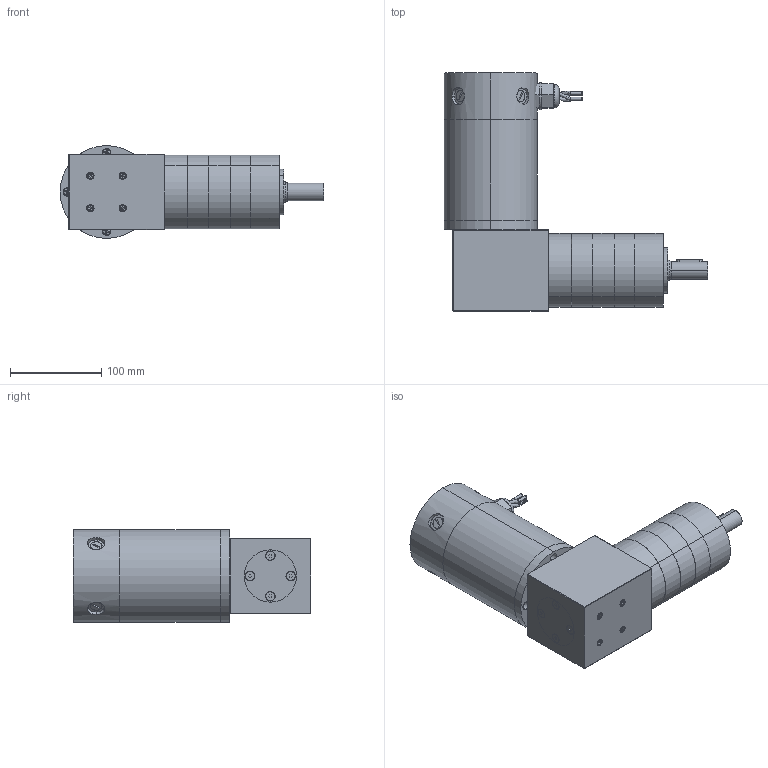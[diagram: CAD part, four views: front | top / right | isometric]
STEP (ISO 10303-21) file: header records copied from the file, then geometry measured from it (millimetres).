
FILE_DESCRIPTION (( 'STEP AP203' ), '1' );
FILE_NAME ('d40675agra4.step', '2018-12-07T19:48:01', ( '' ), ( '' ), 'SwSTEP 2.0', 'SolidWorks 2017', '' );
FILE_SCHEMA (( 'CONFIG_CONTROL_DESIGN' ));
Length unit declared in the file: inch
Products named in the file (1): d40675agra4
Bounding box: 288.5 x 260.35 x 101.6 mm (x, y, z)
Volume: 2830065 mm3; surface area: 277904.1 mm2
Topology: 29 solids, 29 shells, 1269 faces, 3167 edges, 2001 vertices
Faces by surface type: cylinder 727, plane 360, cone 117, torus 41, bspline 16, sphere 8
Entity records: 57625 total; most frequent: CARTESIAN_POINT 29944, ORIENTED_EDGE 6270, DIRECTION 5368, EDGE_CURVE 3135, AXIS2_PLACEMENT_3D 2025, VERTEX_POINT 2001, EDGE_LOOP 1382, VECTOR 1318
